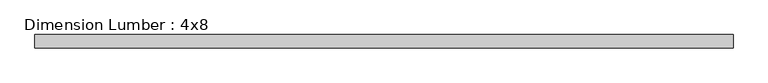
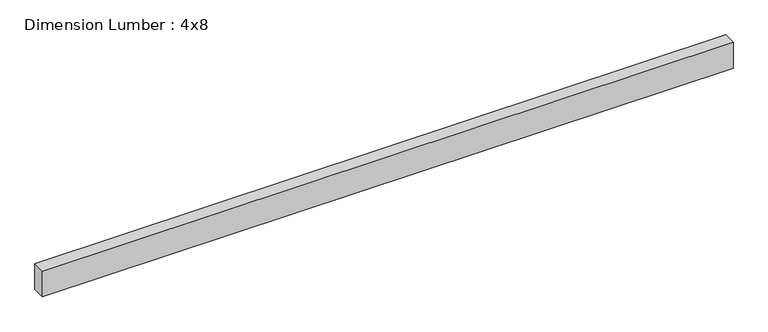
"""IFC4 building model written with IfcOpenShell, lengths in millimetres: beam geometry, Dimension Lumber : 4x8."""

from ifc_helpers import new_model, si_unit, frame, origin, place, context, project, spatial, polyline, outline, extrude, source, transform, mapped, element, save


def dimension_lumber_4x8_e111841c(model_context):
    return source(origin(), model_context, "Body", "SweptSolid", [
        extrude(outline(polyline([(2349.5, 44.45), (2349.5, -44.45), (-2349.5, -44.45), (-2349.5, 44.45), (2349.5, 44.45)])), frame((0.0, 0.0, -92.075), z_axis=(0.0, 0.0, 1.0), x_axis=(1.0, 0.0, 0.0)), (0.0, 0.0, 1.0), 184.15),
    ])


if __name__ == "__main__":
    model = new_model("IFC4")
    model_context = context("Model", 3, world=origin())
    ifc_project = project(units=[si_unit("LENGTHUNIT", "METRE", prefix="MILLI")], contexts=[model_context])
    site = spatial("IfcSite", under=ifc_project)
    building = spatial("IfcBuilding", under=site)
    placement = place(None, origin())
    dimension_lumber_4x8_shape = dimension_lumber_4x8_e111841c(model_context)
    element("IfcBeam", 1, ObjectType="Dimension Lumber : 4x8", at=placement, inside=building, context=model_context, shape_type="MappedRepresentation", body=[
        mapped(dimension_lumber_4x8_shape, transform((0.0, 0.0, 0.0), x_axis=(1.0, 0.0, 0.0), y_axis=(0.0, 1.0, 0.0), z_axis=(0.0, 0.0, 1.0))),
    ])
    save(model, "model.ifc")
